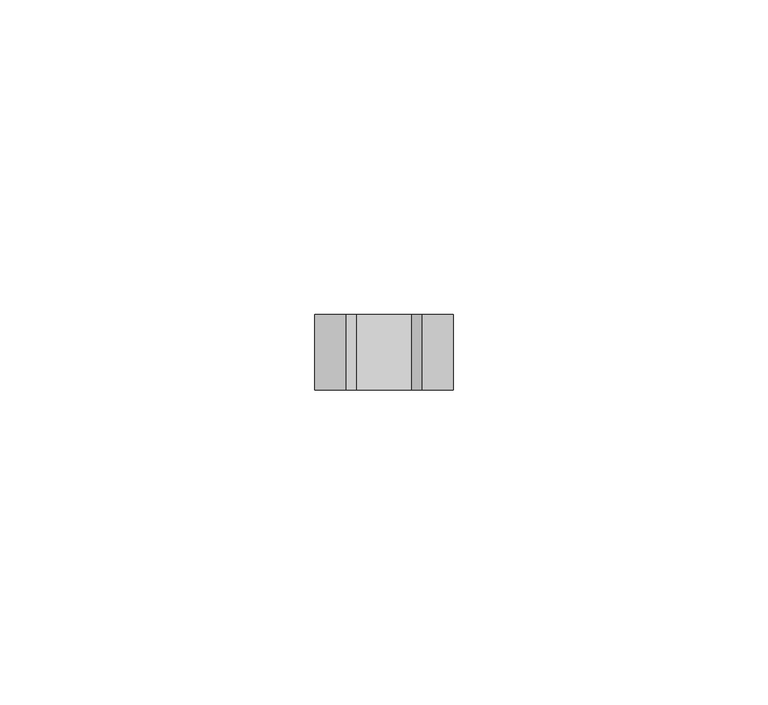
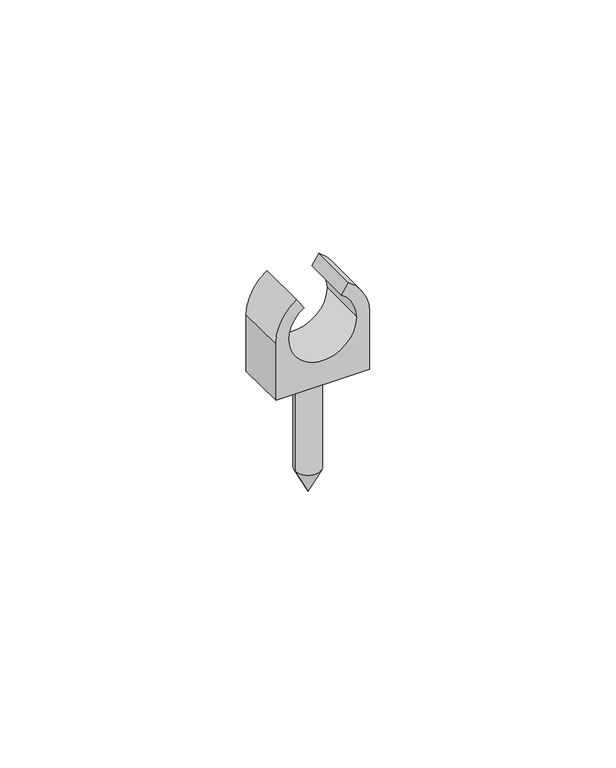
"""IFC4 building model written with IfcOpenShell, lengths in millimetres: cable carrier fitting geometry."""

from ifc_helpers import new_model, si_unit, point, frame, frame_2d, origin, place, context, project, spatial, polyline, circle_curve, trimmed, segment, composite_curve, outline, extrude, source, transform, mapped, element, save
from ifc_brep_helpers import plane_surface, cylinder_surface, revolved_surface, advanced_brep


def cable_carrier_fitting_667f8432(model_context):
    return source(origin(), model_context, "Body", "SolidModel", [
        advanced_brep(
        [(0.0, 0.0, -30.0), (-3.0, 0.0, -24.0), (3.0, 0.0, -24.0), (3.0, 0.0, 0.0), (-3.0, 0.0, 0.0), (0.0, 0.0, 0.0)],
        [
            (0, 1),
            (1, 2, circle_curve(frame((0.0, 0.0, -24.0), z_axis=(0.0, 0.0, -1.0), x_axis=(-1.0, 0.0, 0.0)), 3.0)),
            (2, 0),
            (2, 1, circle_curve(frame((0.0, 0.0, -24.0), z_axis=(0.0, 0.0, -1.0), x_axis=(-1.0, 0.0, 0.0)), 3.0)),
            (3, 4, circle_curve(frame((0.0, 0.0, 0.0), z_axis=(0.0, 0.0, 1.0), x_axis=(-1.0, 0.0, 0.0)), 3.0)),
            (4, 5),
            (5, 3),
            (4, 3, circle_curve(frame((0.0, 0.0, 0.0), z_axis=(0.0, 0.0, 1.0), x_axis=(-1.0, 0.0, 0.0)), 3.0)),
            (1, 4),
            (3, 2),
        ],
        [
            revolved_surface(polyline([(-3.0, 0.0, -24.0), (0.0, 0.0, -30.0)]), (0.0, 0.0, 2609.0581012), (0.0, 0.0, -1.0)),
            plane_surface(frame((0.0, 0.0, 0.0), z_axis=(0.0, 0.0, 1.0), x_axis=(-1.0, 0.0, 0.0))),
            cylinder_surface(frame((0.0, 0.0, 2609.0581012), z_axis=(0.0, 0.0, -1.0), x_axis=(-1.0, 0.0, 0.0)), 3.0),
        ],
        [
            (0, [[1, 2, 3]]),
            (0, [[-3, 4, -1]]),
            (1, [[5, 6, 7]]),
            (1, [[8, -7, -6]]),
            (2, [[-2, 9, -5, 10]]),
            (2, [[-4, -10, -8, -9]]),
        ],
    ),
        extrude(outline(composite_curve([segment(polyline([(0.0, -11.0), (0.0, 11.0), (14.0, 11.0)]), True, "CONTINUOUS"), segment(trimmed(circle_curve(frame_2d((14.0, 0.0)), 11.0), [point((14.0, 11.0))], [point((23.1641982, 6.0841986))], False, "CARTESIAN"), True, "CONTINUOUS"), segment(polyline([(23.1641982, 6.0841986), (20.6648714, 4.4248717)]), True, "CONTINUOUS"), segment(trimmed(circle_curve(frame_2d((14.0, 0.0)), 8.0), [point((20.6648714, 4.4248717))], [point((14.0, 8.0))], True, "CARTESIAN"), True, "CONTINUOUS"), segment(trimmed(circle_curve(frame_2d((14.0, 0.0)), 8.0), [point((14.0, 8.0))], [point((14.0, -8.0))], True, "CARTESIAN"), True, "CONTINUOUS"), segment(trimmed(circle_curve(frame_2d((14.0, 0.0)), 8.0), [point((14.0, -8.0))], [point((20.6648714, -4.4248717))], True, "CARTESIAN"), True, "CONTINUOUS"), segment(polyline([(20.6648714, -4.4248717), (23.1641982, -6.0841986)]), True, "CONTINUOUS"), segment(trimmed(circle_curve(frame_2d((14.0, 0.0)), 11.0), [point((23.1641982, -6.0841986))], [point((14.0, -11.0))], False, "CARTESIAN"), True, "CONTINUOUS"), segment(polyline([(14.0, -11.0), (0.0, -11.0)]), True, "CONTINUOUS")], self_intersect=False)), frame((0.0, -6.0, 0.0), z_axis=(0.0, 1.0, 0.0), x_axis=(0.0, 0.0, 1.0)), (0.0, 0.0, 1.0), 12.0),
    ])


if __name__ == "__main__":
    model = new_model("IFC4")
    model_context = context("Model", 3, world=origin())
    ifc_project = project(units=[si_unit("LENGTHUNIT", "METRE", prefix="MILLI")], contexts=[model_context])
    site = spatial("IfcSite", under=ifc_project)
    building = spatial("IfcBuilding", under=site)
    placement = place(None, origin())
    cable_carrier_fitting_shape = cable_carrier_fitting_667f8432(model_context)
    element("IfcCableCarrierFitting", 1, at=placement, inside=building, context=model_context, shape_type="MappedRepresentation", body=[
        mapped(cable_carrier_fitting_shape, transform((0.0, 0.0, 0.0), x_axis=(1.0, 0.0, 0.0), y_axis=(0.0, 1.0, 0.0), z_axis=(0.0, 0.0, 1.0))),
    ])
    save(model, "model.ifc")
